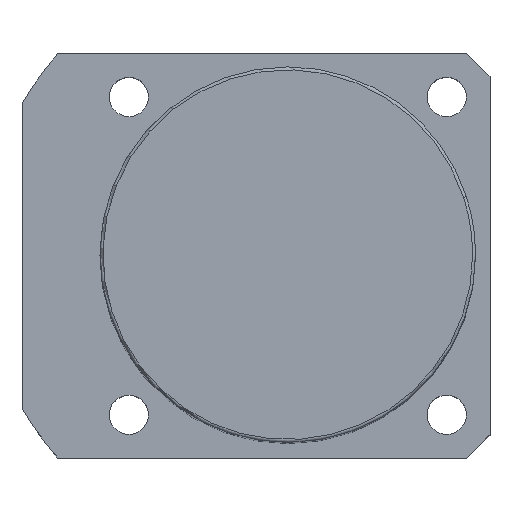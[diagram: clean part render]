
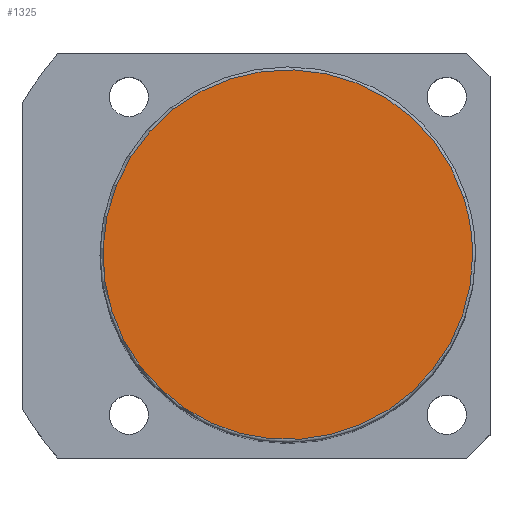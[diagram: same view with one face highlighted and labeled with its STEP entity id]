
A CAD part, top view. The second image highlights one B-rep face of the part: STEP entity #1325.
In plain terms, the highlighted planar face has unit normal (0, 0, 1).
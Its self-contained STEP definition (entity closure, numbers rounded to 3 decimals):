
#1291=CARTESIAN_POINT('',(32.0,0.0,131.0));
#1292=VERTEX_POINT('',#1291);
#1293=CARTESIAN_POINT('',(30.434,9.889,131.0));
#1294=VERTEX_POINT('',#1293);
#1295=CARTESIAN_POINT('',(0.0,0.0,131.0));
#1296=DIRECTION('',(0.0,0.0,1.0));
#1297=DIRECTION('',(1.0,0.0,0.0));
#1298=AXIS2_PLACEMENT_3D('',#1295,#1296,#1297);
#1299=CIRCLE('',#1298,32.0);
#1300=EDGE_CURVE('no 1828',#1292,#1294,#1299,.T.);
#1301=ORIENTED_EDGE('',*,*,#1300,.T.);
#1302=CARTESIAN_POINT('',(-30.434,-9.889,131.0));
#1303=VERTEX_POINT('',#1302);
#1304=CARTESIAN_POINT('',(0.0,0.0,131.0));
#1305=DIRECTION('',(0.0,0.0,1.0));
#1306=DIRECTION('',(1.0,0.0,0.0));
#1307=AXIS2_PLACEMENT_3D('',#1304,#1305,#1306);
#1308=CIRCLE('',#1307,32.0);
#1309=EDGE_CURVE('no 1834',#1294,#1303,#1308,.T.);
#1310=ORIENTED_EDGE('',*,*,#1309,.T.);
#1311=CARTESIAN_POINT('',(0.0,0.0,131.0));
#1312=DIRECTION('',(0.0,0.0,1.0));
#1313=DIRECTION('',(1.0,0.0,0.0));
#1314=AXIS2_PLACEMENT_3D('',#1311,#1312,#1313);
#1315=CIRCLE('',#1314,32.0);
#1316=EDGE_CURVE('no 1838',#1303,#1292,#1315,.T.);
#1317=ORIENTED_EDGE('',*,*,#1316,.T.);
#1318=EDGE_LOOP('',(#1301,#1310,#1317));
#1319=FACE_OUTER_BOUND('',#1318,.T.);
#1320=CARTESIAN_POINT('',(0.0,0.0,131.0));
#1321=DIRECTION('',(0.0,0.0,1.0));
#1322=DIRECTION('',(1.0,0.0,0.0));
#1323=AXIS2_PLACEMENT_3D('',#1320,#1321,#1322);
#1324=PLANE('',#1323);
#1325=ADVANCED_FACE('no 1819',(#1319),#1324,.T.);
